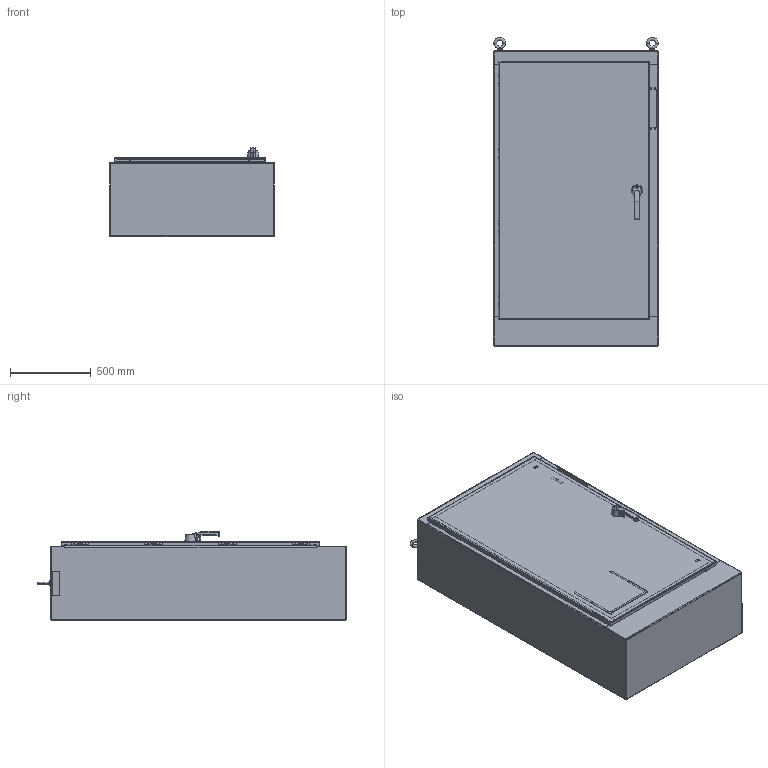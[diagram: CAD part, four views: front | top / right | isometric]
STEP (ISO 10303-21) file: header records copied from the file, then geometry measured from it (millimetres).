
FILE_DESCRIPTION (( 'STEP AP203' ), '1' );
FILE_NAME ('a72xm4018ftclp.STEP', '2012-08-29T17:50:00', ( 'User' ), ( 'Pentair Inc' ), 'SwSTEP 2.0', 'SolidWorks 2010', '' );
FILE_SCHEMA (( 'CONFIG_CONTROL_DESIGN' ));
Products named in the file (64): 30231001; 89046391; 89046390; 22101001; 30101003; 22318002; 26151006; 11158979; 11158978; 99401527; 99401529; 30176001_EXTENDED .81; 99401525_.25"; 87790199; 89085489; 87790201_87790201; 60127135_Installed postion; 60127199_60127199; 89085847; 89086149; 89086159; 11258884_11258884; 89085500; 26108002; 87932883; 99415273_Hex Nut; 89086200; 89086190; 89086185; 99404177_Config-Drawing; 24110001; 26173001; 99401225_Config-Drawing; 89085464_60127101; 23418001; 22318001; 89086635; 87956539; 87922656; 26274015_26274015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
Assembly tree (103 placements, depth 5):
  a72xm4018ftclp
    89085489  x4
      87790201_87790201
      60127135_Installed postion
      89085847
      60127199_60127199
    11358034
      30176001_EXTENDED .81
      99401525_.25"  x3
      11158979
        99401529
        11158978
        99401527  x2
      26151006
      30231005
        89046391
        30231001
        89046390
      30101003
      22318002
      22101001  x3
    87790199  x4
    89086033
      89086149
        89086159
        11258884_11258884
      26108002  x2
      87932883  x2
      99415273_Hex Nut  x2
      89086129
        89086139
        99404177_Config-Drawing
      89085500  x2
      89086050
        27104001  x2
        89086097
          89086113
        22112001_AFTER WELD  x6
        89086066
          89086081
          99404177_Config-Drawing  x2
    11158216
    89086200
      22318001  x2
      35130001_SI-HHMS 0.25-28x0.375x0.375-N  x2
      87956539  x2
      27439101_27439101
      99401300_99401300  x2
      22101014
      26274015_26274015  x2
        27115001
        30101003
        22318002
        26273015_26273015
      87544899
      35131001_35131001
      23418001
      89087372_35124003
      89086635
      87922656  x2
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Bounding box: 1022.35 x 1914.78 x 551.87 mm (x, y, z)
Volume: 22072558.5 mm3; surface area: 14461010 mm2
Topology: 109 solids, 112 shells, 5535 faces, 13413 edges, 8155 vertices
Faces by surface type: plane 2542, cylinder 1593, bspline 521, cone 438, torus 374, sphere 67
Entity records: 122235 total; most frequent: CARTESIAN_POINT 45963, ORIENTED_EDGE 14614, DIRECTION 13433, EDGE_CURVE 7308, AXIS2_PLACEMENT_3D 4612, VERTEX_POINT 4550, VECTOR 4209, LINE 4209
